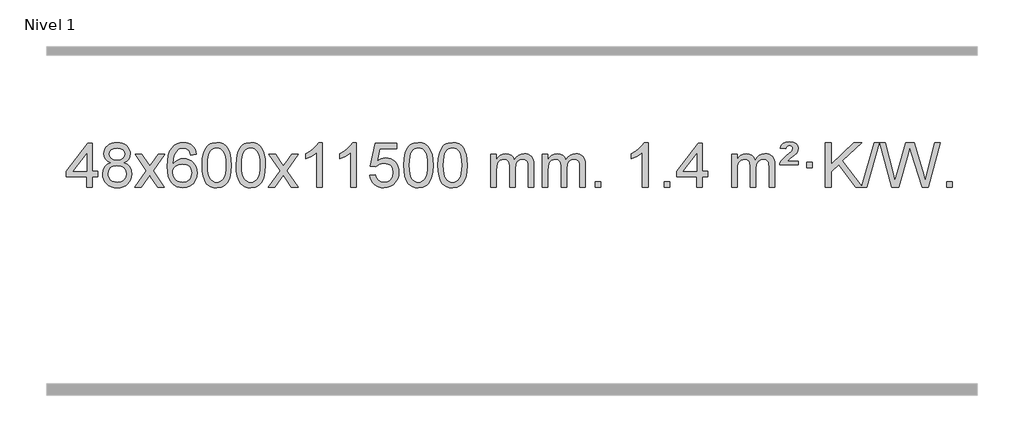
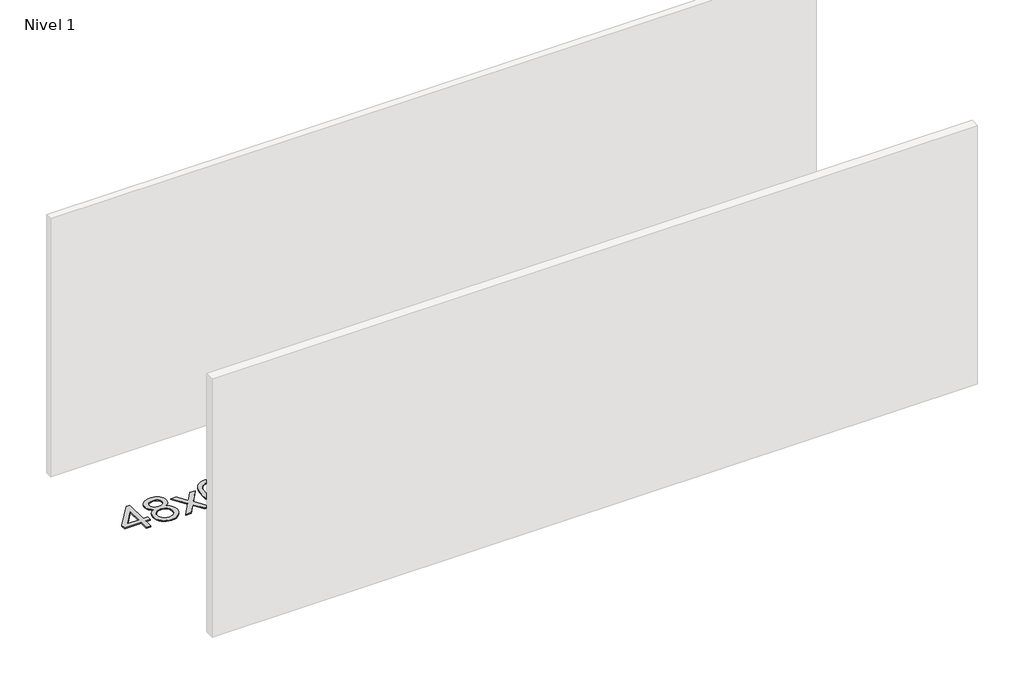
# One storey, part 9 of 10: 1 proxy.
"""IFC4 building model written with IfcOpenShell, lengths in millimetres."""

from ifc_helpers import new_model, si_unit, origin, origin_with_axes, place, context, project, spatial, polyline, outline, extrude, element, save

model = new_model("IFC4")

# Units and contexts
model_context = context("Model", 3, world=origin())
ifc_project = project(units=[si_unit("LENGTHUNIT", "METRE", prefix="MILLI")], contexts=[model_context])

# Site, building, storey
site = spatial("IfcSite", under=ifc_project)
building = spatial("IfcBuilding", under=site)
storey = spatial("IfcBuildingStorey", under=building, Name="Nivel 1", Elevation=0.0)

# Proxy
placement = place(None, origin())
element("IfcBuildingElementProxy", 1, Name="Texto de modelo 1", ObjectType="Texto de modelo 1", at=placement, inside=storey, context=model_context, shape_type="SweptSolid", body=[
    extrude(outline(polyline([(-14116.7326019, 11534.4953548), (-14116.7326019, 11628.6731455), (-14298.809664, 11628.6731455), (-14298.809664, 11678.9013006), (-14104.1755631, 11930.042076), (-14066.5044468, 11930.042076), (-14066.5044468, 11678.9013006), (-14016.2762917, 11678.9013006), (-14016.2762917, 11628.6731455), (-14066.5044468, 11628.6731455), (-14066.5044468, 11534.4953548), (-14116.7326019, 11534.4953548)]), holes=[polyline([(-14116.7326019, 11678.9013006), (-14116.7326019, 11834.0984516), (-14237.0054888, 11678.9013006), (-14116.7326019, 11678.9013006)])]), origin_with_axes(), (0.0, 0.0, 1.0), 10.0),
    extrude(outline(polyline([(-13899.1426644, 11755.8131631), (-13926.0348383, 11769.0569149), (-13944.9071846, 11787.0095563), (-13956.0540091, 11809.3032052), (-13959.7696172, 11835.5699796), (-13957.7462663, 11856.0548754), (-13951.6762134, 11874.8352512), (-13941.5594585, 11891.9111072), (-13927.3960017, 11907.2824432), (-13909.8664246, 11919.9866348), (-13889.651309, 11929.0610573), (-13866.7506548, 11934.5057109), (-13841.164462, 11936.3205954), (-13815.4556419, 11934.4627913), (-13792.3833094, 11928.8893791), (-13771.9474646, 11919.6003587), (-13754.1481074, 11906.5957302), (-13739.7271332, 11890.9239572), (-13729.4264373, 11873.6335034), (-13723.2460198, 11854.7243688), (-13721.1858806, 11834.1965535), (-13724.8524379, 11808.7759076), (-13735.8521095, 11786.8624035), (-13754.3075229, 11769.0201267), (-13780.3413055, 11755.8131631), (-13749.4269551, 11739.8838727), (-13726.9248398, 11716.4252641), (-13713.2028413, 11686.5655088), (-13708.6288419, 11651.4327783), (-13710.8974475, 11626.3800144), (-13717.7032644, 11603.4119152), (-13729.0462926, 11582.5284806), (-13744.9265321, 11563.7297106), (-13764.5101169, 11548.1928277), (-13786.9631814, 11537.0950542), (-13812.2857254, 11530.4363901), (-13840.4777489, 11528.2168354), (-13868.6697725, 11530.4455871), (-13893.9923165, 11537.1318424), (-13916.4453809, 11548.2756012), (-13936.0289658, 11563.8768634), (-13951.9092053, 11582.8074578), (-13963.2522335, 11603.9392127), (-13970.0580504, 11627.2721283), (-13972.326656, 11652.8062044), (-13967.5687155, 11689.3000983), (-13953.2948941, 11719.3192691), (-13930.2409558, 11741.8336472), (-13899.1426644, 11755.8131631)]), holes=[polyline([(-13909.5414622, 11834.0984516), (-13905.09009, 11812.1726847), (-13891.7359736, 11794.6615018), (-13869.8715204, 11783.1835835), (-13839.8891378, 11779.3576108), (-13810.6057309, 11783.159058), (-13789.0723715, 11794.5633999), (-13775.8286197, 11811.4859717), (-13771.4140357, 11831.8421087), (-13775.9757725, 11852.970798), (-13789.6609827, 11870.4451928), (-13811.4886477, 11882.1806284), (-13840.4777489, 11886.0924403), (-13869.6507912, 11882.2664675), (-13891.441668, 11870.7885493), (-13905.0165136, 11853.9640794), (-13909.5414622, 11834.0984516)]), polyline([(-13922.0985009, 11654.572038), (-13920.0015736, 11635.3563351), (-13913.7107915, 11616.7537689), (-13902.0979831, 11600.5301729), (-13884.0349772, 11588.4513807), (-13862.4035159, 11580.946588), (-13840.0853415, 11578.4449905), (-13805.8968414, 11583.705703), (-13792.0031647, 11590.2815936), (-13780.2432036, 11599.4878406), (-13764.2035486, 11623.3879075), (-13758.8569969, 11653.0024081), (-13764.3752269, 11683.1196808), (-13780.9299167, 11707.5470453), (-13793.0087088, 11716.9893498), (-13807.1721656, 11723.7338531), (-13841.7530732, 11729.1294557), (-13875.4633267, 11723.8074295), (-13889.2006535, 11717.1548967), (-13900.8594471, 11707.8413509), (-13916.7887375, 11683.8799703), (-13922.0985009, 11654.572038)])]), origin_with_axes(), (0.0, 0.0, 1.0), 10.0),
    extrude(outline(polyline([(-13683.5147643, 11534.4953548), (-13576.1913236, 11682.8253752), (-13677.236245, 11829.5857658), (-13616.8054959, 11829.5857658), (-13568.0488688, 11758.9524228), (-13545.289236, 11725.5977885), (-13525.5707611, 11752.8701071), (-13470.0451053, 11829.5857658), (-13409.6143562, 11829.5857658), (-13515.7605745, 11682.8253752), (-13413.5384308, 11534.4953548), (-13473.9691799, 11534.4953548), (-13535.4790495, 11623.6699504), (-13546.760764, 11639.95486), (-13623.0840153, 11534.4953548), (-13683.5147643, 11534.4953548)])), origin_with_axes(), (0.0, 0.0, 1.0), 10.0),
    extrude(outline(polyline([(-13124.7265391, 11829.5857658), (-13174.9546942, 11823.3072464), (-13183.0480981, 11848.2005948), (-13193.9864561, 11865.196743), (-13216.7706143, 11880.868516), (-13244.312713, 11886.0924403), (-13267.660957, 11883.0512825), (-13289.6357748, 11873.927809), (-13308.5081212, 11854.7121061), (-13323.9223768, 11828.2613906), (-13334.3334372, 11790.8477917), (-13338.1961982, 11738.7434385), (-13318.0485276, 11762.251098), (-13293.903206, 11778.8180505), (-13267.109134, 11788.6404998), (-13239.0152123, 11791.9146495), (-13214.8821534, 11789.6767007), (-13192.61303, 11782.9628543), (-13172.207842, 11771.7731103), (-13153.6665894, 11756.1074687), (-13138.2584652, 11736.8978971), (-13127.2526622, 11715.0763635), (-13120.6491803, 11690.6428676), (-13118.4480197, 11663.5974096), (-13122.5928236, 11627.6308132), (-13135.027235, 11594.2884417), (-13154.7211845, 11566.010579), (-13180.6446024, 11545.237509), (-13211.6202664, 11532.4720038), (-13246.4709541, 11528.2168354), (-13276.4134828, 11531.037264), (-13303.4558751, 11539.4985499), (-13327.5981311, 11553.600693), (-13348.8402506, 11573.3436935), (-13366.1582955, 11599.561417), (-13378.5283276, 11633.0877295), (-13385.9503469, 11673.9226309), (-13388.4243533, 11722.0661214), (-13385.677501, 11776.0405414), (-13377.4369443, 11822.1054986), (-13363.7026832, 11860.2609929), (-13344.4747176, 11890.5070242), (-13323.6342026, 11910.5504616), (-13299.4704868, 11924.8672026), (-13271.9835704, 11933.4572472), (-13241.1734533, 11936.3205954), (-13218.0398072, 11934.5486304), (-13197.1011903, 11929.2327356), (-13178.3576027, 11920.3729109), (-13161.8090442, 11907.9691563), (-13147.9031048, 11892.4384047), (-13137.0873742, 11874.1975891), (-13129.3618523, 11853.2467095), (-13124.7265391, 11829.5857658)]), holes=[polyline([(-13338.1961982, 11664.3822245), (-13335.2899304, 11642.1253638), (-13326.5711271, 11620.8740472), (-13313.0330697, 11602.6025748), (-13295.6690396, 11589.2852466), (-13274.7120286, 11581.1550545), (-13250.3950287, 11578.4449905), (-13217.2488609, 11584.0613222), (-13203.3337244, 11591.081737), (-13191.1905529, 11600.9103176), (-13181.3405125, 11613.1485253), (-13174.3047693, 11627.3978213), (-13168.6761748, 11661.9296779), (-13174.2311929, 11695.0758457), (-13181.1749656, 11708.6966765), (-13190.8962473, 11720.3493387), (-13203.0762071, 11729.6843444), (-13217.3960137, 11736.3522055), (-13252.4551679, 11741.6864944), (-13285.5522847, 11736.3522055), (-13313.2292735, 11720.3493387), (-13324.152303, 11708.8499607), (-13331.954467, 11695.6889823), (-13336.6357654, 11680.8664036), (-13338.1961982, 11664.3822245)])]), origin_with_axes(), (0.0, 0.0, 1.0), 10.0),
    extrude(outline(polyline([(-13074.4983841, 11732.1706135), (-13070.8073014, 11796.488649), (-13059.7340533, 11847.7836619), (-13041.3890045, 11886.840467), (-13029.5309415, 11902.0738473), (-13015.8825195, 11914.4438794), (-13000.3977532, 11924.0149426), (-12983.0306573, 11930.8514164), (-12942.649477, 11936.3205954), (-12911.6983385, 11933.0832338), (-12883.9845615, 11923.3711491), (-12860.8079958, 11907.5644861), (-12843.4684911, 11886.0433894), (-12830.3718921, 11858.9918), (-12819.9240434, 11826.5936589), (-12813.0814383, 11785.4521891), (-12810.8005699, 11732.1706135), (-12814.4548644, 11668.22046), (-12825.4177479, 11617.0480745), (-12843.6524321, 11577.9544811), (-12855.4829039, 11562.6751156), (-12869.1221289, 11550.2407042), (-12884.6252893, 11540.6052616), (-12902.0475674, 11533.7228026), (-12942.649477, 11528.2168354), (-12970.314203, 11530.6080683), (-12994.8396694, 11537.7817673), (-13016.225876, 11549.7379321), (-13034.472823, 11566.4765629), (-13051.9840059, 11596.734857), (-13064.4919938, 11634.4366301), (-13071.9967865, 11679.5818823), (-13074.4983841, 11732.1706135)]), holes=[polyline([(-13024.270229, 11732.2687154), (-13022.798701, 11688.6041882), (-13018.3841171, 11653.2599255), (-13011.0264772, 11626.2359273), (-13000.7257813, 11607.5321935), (-12988.2668444, 11594.8065422), (-12974.4344814, 11585.7167912), (-12959.2286922, 11580.2629406), (-12942.649477, 11578.4449905), (-12926.0702617, 11580.269072), (-12910.8644726, 11585.7413167), (-12897.0321096, 11594.8617245), (-12884.5731727, 11607.6302954), (-12874.2724768, 11626.364686), (-12866.9148369, 11653.3825529), (-12862.500253, 11688.683896), (-12861.028725, 11732.2687154), (-12862.451202, 11774.7774799), (-12866.7186332, 11809.4994089), (-12873.8310184, 11836.4345023), (-12883.7883578, 11855.5827602), (-12896.0388282, 11868.9307452), (-12910.0306067, 11878.4650203), (-12925.7636934, 11884.1855853), (-12943.2380882, 11886.0924403), (-12959.7314643, 11884.4124458), (-12974.679736, 11879.3724625), (-12988.0829034, 11870.9724903), (-12999.9409664, 11859.2125292), (-13010.5850188, 11838.3658828), (-13018.1879133, 11810.2596983), (-13022.7496501, 11774.8939759), (-13024.270229, 11732.2687154)])]), origin_with_axes(), (0.0, 0.0, 1.0), 10.0),
    extrude(outline(polyline([(-12766.8509342, 11732.1706135), (-12763.1598515, 11796.488649), (-12752.0866035, 11847.7836619), (-12733.7415547, 11886.840467), (-12721.8834917, 11902.0738473), (-12708.2350697, 11914.4438794), (-12692.7503033, 11924.0149426), (-12675.3832075, 11930.8514164), (-12635.0020271, 11936.3205954), (-12604.0508886, 11933.0832338), (-12576.3371117, 11923.3711491), (-12553.160546, 11907.5644861), (-12535.8210412, 11886.0433894), (-12522.7244422, 11858.9918), (-12512.2765936, 11826.5936589), (-12505.4339884, 11785.4521891), (-12503.1531201, 11732.1706135), (-12506.8074146, 11668.22046), (-12517.770298, 11617.0480745), (-12536.0049822, 11577.9544811), (-12547.8354541, 11562.6751156), (-12561.474679, 11550.2407042), (-12576.9778395, 11540.6052616), (-12594.4001176, 11533.7228026), (-12635.0020271, 11528.2168354), (-12662.6667532, 11530.6080683), (-12687.1922195, 11537.7817673), (-12708.5784262, 11549.7379321), (-12726.8253731, 11566.4765629), (-12744.3365561, 11596.734857), (-12756.844544, 11634.4366301), (-12764.3493367, 11679.5818823), (-12766.8509342, 11732.1706135)]), holes=[polyline([(-12716.6227791, 11732.2687154), (-12715.1512512, 11688.6041882), (-12710.7366672, 11653.2599255), (-12703.3790273, 11626.2359273), (-12693.0783315, 11607.5321935), (-12680.6193946, 11594.8065422), (-12666.7870315, 11585.7167912), (-12651.5812424, 11580.2629406), (-12635.0020271, 11578.4449905), (-12618.4228119, 11580.269072), (-12603.2170228, 11585.7413167), (-12589.3846597, 11594.8617245), (-12576.9257228, 11607.6302954), (-12566.625027, 11626.364686), (-12559.2673871, 11653.3825529), (-12554.8528031, 11688.683896), (-12553.3812752, 11732.2687154), (-12554.8037522, 11774.7774799), (-12559.0711833, 11809.4994089), (-12566.1835686, 11836.4345023), (-12576.1409079, 11855.5827602), (-12588.3913784, 11868.9307452), (-12602.3831569, 11878.4650203), (-12618.1162436, 11884.1855853), (-12635.5906383, 11886.0924403), (-12652.0840145, 11884.4124458), (-12667.0322862, 11879.3724625), (-12680.4354536, 11870.9724903), (-12692.2935165, 11859.2125292), (-12702.9375689, 11838.3658828), (-12710.5404635, 11810.2596983), (-12715.1022002, 11774.8939759), (-12716.6227791, 11732.2687154)])]), origin_with_axes(), (0.0, 0.0, 1.0), 10.0),
    extrude(outline(polyline([(-12478.0390425, 11534.4953548), (-12370.7156018, 11682.8253752), (-12471.7605232, 11829.5857658), (-12411.3297741, 11829.5857658), (-12362.573147, 11758.9524228), (-12339.8135142, 11725.5977885), (-12320.0950393, 11752.8701071), (-12264.5693835, 11829.5857658), (-12204.1386344, 11829.5857658), (-12310.2848527, 11682.8253752), (-12208.062709, 11534.4953548), (-12268.4934581, 11534.4953548), (-12330.0033277, 11623.6699504), (-12341.2850422, 11639.95486), (-12417.6082935, 11534.4953548), (-12478.0390425, 11534.4953548)])), origin_with_axes(), (0.0, 0.0, 1.0), 10.0),
    extrude(outline(polyline([(-11988.3145306, 11534.4953548), (-12038.5426856, 11534.4953548), (-12038.5426856, 11847.6365091), (-12059.5119594, 11830.6771491), (-12086.1220903, 11813.7423146), (-12138.9989958, 11788.3829824), (-12138.9989958, 11835.8642852), (-12099.5497832, 11857.3240683), (-12065.3735458, 11882.8550787), (-12038.432321, 11910.00477), (-12020.6881461, 11936.3205954), (-11988.3145306, 11936.3205954), (-11988.3145306, 11534.4953548)])), origin_with_axes(), (0.0, 0.0, 1.0), 10.0),
    extrude(outline(polyline([(-11680.6670807, 11534.4953548), (-11730.8952358, 11534.4953548), (-11730.8952358, 11847.6365091), (-11751.8645095, 11830.6771491), (-11778.4746405, 11813.7423146), (-11831.351546, 11788.3829824), (-11831.351546, 11835.8642852), (-11791.9023333, 11857.3240683), (-11757.726096, 11882.8550787), (-11730.7848712, 11910.00477), (-11713.0406963, 11936.3205954), (-11680.6670807, 11936.3205954), (-11680.6670807, 11534.4953548)])), origin_with_axes(), (0.0, 0.0, 1.0), 10.0),
    extrude(outline(polyline([(-11561.3752124, 11641.2301843), (-11511.1470573, 11647.5087037), (-11501.925482, 11617.3546428), (-11485.8367761, 11595.7599697), (-11462.954516, 11582.7737353), (-11433.3522781, 11578.4449905), (-11414.2224144, 11579.9502409), (-11397.3488935, 11584.4659924), (-11382.7317156, 11591.9922449), (-11370.3708805, 11602.5289984), (-11360.5422999, 11615.5550867), (-11353.5218851, 11630.5493437), (-11347.9055534, 11666.4423637), (-11353.1662659, 11700.2384563), (-11359.7421566, 11714.1566585), (-11368.9484035, 11726.0882979), (-11380.8156635, 11735.6593611), (-11395.3745935, 11742.4958348), (-11432.5674632, 11747.9650138), (-11456.933514, 11745.7822473), (-11476.6642517, 11739.2339478), (-11492.4218638, 11729.2030321), (-11504.868538, 11716.5724169), (-11555.096693, 11722.8509363), (-11511.1470573, 11930.042076), (-11316.5129564, 11930.042076), (-11316.5129564, 11879.8139209), (-11470.5328851, 11879.8139209), (-11492.0171936, 11769.1550168), (-11474.2914128, 11781.8592083), (-11456.1364363, 11790.9336309), (-11437.5522642, 11796.3782844), (-11418.5388964, 11798.1931689), (-11394.0778094, 11795.9429574), (-11371.6094166, 11789.1923228), (-11351.1337179, 11777.9412651), (-11332.6507133, 11762.1897843), (-11317.349888, 11742.900505), (-11306.420727, 11721.0360518), (-11299.8632305, 11696.5964246), (-11297.6773983, 11669.5816234), (-11299.645567, 11643.5601036), (-11305.550073, 11619.3534683), (-11315.3909163, 11596.9617175), (-11329.1680971, 11576.3848513), (-11350.0392689, 11555.3113443), (-11374.393057, 11540.2588394), (-11402.2294613, 11531.2273364), (-11433.5484818, 11528.2168354), (-11459.4688341, 11530.1512815), (-11482.8814574, 11535.95462), (-11503.7863518, 11545.6268508), (-11522.1835172, 11559.1679739), (-11537.4904739, 11575.903539), (-11549.124742, 11595.1590958), (-11557.0863215, 11616.9346442), (-11561.3752124, 11641.2301843)])), origin_with_axes(), (0.0, 0.0, 1.0), 10.0),
    extrude(outline(polyline([(-11253.7277626, 11732.1706135), (-11250.0366799, 11796.488649), (-11238.9634319, 11847.7836619), (-11220.618383, 11886.840467), (-11208.76032, 11902.0738473), (-11195.111898, 11914.4438794), (-11179.6271317, 11924.0149426), (-11162.2600359, 11930.8514164), (-11121.8788555, 11936.3205954), (-11090.927717, 11933.0832338), (-11063.21394, 11923.3711491), (-11040.0373743, 11907.5644861), (-11022.6978696, 11886.0433894), (-11009.6012706, 11858.9918), (-10999.1534219, 11826.5936589), (-10992.3108168, 11785.4521891), (-10990.0299484, 11732.1706135), (-10993.6842429, 11668.22046), (-11004.6471264, 11617.0480745), (-11022.8818106, 11577.9544811), (-11034.7122824, 11562.6751156), (-11048.3515074, 11550.2407042), (-11063.8546678, 11540.6052616), (-11081.276946, 11533.7228026), (-11121.8788555, 11528.2168354), (-11149.5435816, 11530.6080683), (-11174.0690479, 11537.7817673), (-11195.4552546, 11549.7379321), (-11213.7022015, 11566.4765629), (-11231.2133845, 11596.734857), (-11243.7213723, 11634.4366301), (-11251.226165, 11679.5818823), (-11253.7277626, 11732.1706135)]), holes=[polyline([(-11203.4996075, 11732.2687154), (-11202.0280795, 11688.6041882), (-11197.6134956, 11653.2599255), (-11190.2558557, 11626.2359273), (-11179.9551598, 11607.5321935), (-11167.4962229, 11594.8065422), (-11153.6638599, 11585.7167912), (-11138.4580708, 11580.2629406), (-11121.8788555, 11578.4449905), (-11105.2996403, 11580.269072), (-11090.0938511, 11585.7413167), (-11076.2614881, 11594.8617245), (-11063.8025512, 11607.6302954), (-11053.5018553, 11626.364686), (-11046.1442154, 11653.3825529), (-11041.7296315, 11688.683896), (-11040.2581035, 11732.2687154), (-11041.6805806, 11774.7774799), (-11045.9480117, 11809.4994089), (-11053.060397, 11836.4345023), (-11063.0177363, 11855.5827602), (-11075.2682067, 11868.9307452), (-11089.2599853, 11878.4650203), (-11104.9930719, 11884.1855853), (-11122.4674667, 11886.0924403), (-11138.9608428, 11884.4124458), (-11153.9091146, 11879.3724625), (-11167.3122819, 11870.9724903), (-11179.1703449, 11859.2125292), (-11189.8143973, 11838.3658828), (-11197.4172919, 11810.2596983), (-11201.9790286, 11774.8939759), (-11203.4996075, 11732.2687154)])]), origin_with_axes(), (0.0, 0.0, 1.0), 10.0),
    extrude(outline(polyline([(-10946.0803128, 11732.1706135), (-10942.3892301, 11796.488649), (-10931.315982, 11847.7836619), (-10912.9709332, 11886.840467), (-10901.1128702, 11902.0738473), (-10887.4644482, 11914.4438794), (-10871.9796819, 11924.0149426), (-10854.612586, 11930.8514164), (-10814.2314057, 11936.3205954), (-10783.2802672, 11933.0832338), (-10755.5664902, 11923.3711491), (-10732.3899245, 11907.5644861), (-10715.0504198, 11886.0433894), (-10701.9538208, 11858.9918), (-10691.5059721, 11826.5936589), (-10684.663367, 11785.4521891), (-10682.3824986, 11732.1706135), (-10686.0367931, 11668.22046), (-10696.9996766, 11617.0480745), (-10715.2343608, 11577.9544811), (-10727.0648326, 11562.6751156), (-10740.7040576, 11550.2407042), (-10756.207218, 11540.6052616), (-10773.6294962, 11533.7228026), (-10814.2314057, 11528.2168354), (-10841.8961317, 11530.6080683), (-10866.4215981, 11537.7817673), (-10887.8078047, 11549.7379321), (-10906.0547517, 11566.4765629), (-10923.5659347, 11596.734857), (-10936.0739225, 11634.4366301), (-10943.5787152, 11679.5818823), (-10946.0803128, 11732.1706135)]), holes=[polyline([(-10895.8521577, 11732.2687154), (-10894.3806297, 11688.6041882), (-10889.9660458, 11653.2599255), (-10882.6084059, 11626.2359273), (-10872.30771, 11607.5321935), (-10859.8487731, 11594.8065422), (-10846.0164101, 11585.7167912), (-10830.8106209, 11580.2629406), (-10814.2314057, 11578.4449905), (-10797.6521904, 11580.269072), (-10782.4464013, 11585.7413167), (-10768.6140383, 11594.8617245), (-10756.1551014, 11607.6302954), (-10745.8544055, 11626.364686), (-10738.4967656, 11653.3825529), (-10734.0821817, 11688.683896), (-10732.6106537, 11732.2687154), (-10734.0331307, 11774.7774799), (-10738.3005619, 11809.4994089), (-10745.4129471, 11836.4345023), (-10755.3702865, 11855.5827602), (-10767.6207569, 11868.9307452), (-10781.6125354, 11878.4650203), (-10797.3456221, 11884.1855853), (-10814.8200169, 11886.0924403), (-10831.313393, 11884.4124458), (-10846.2616647, 11879.3724625), (-10859.6648321, 11870.9724903), (-10871.5228951, 11859.2125292), (-10882.1669475, 11838.3658828), (-10889.769842, 11810.2596983), (-10894.3315788, 11774.8939759), (-10895.8521577, 11732.2687154)])]), origin_with_axes(), (0.0, 0.0, 1.0), 10.0),
    extrude(outline(polyline([(-10468.9128395, 11534.4953548), (-10468.9128395, 11829.5857658), (-10418.6846845, 11829.5857658), (-10418.6846845, 11781.0253425), (-10403.5769972, 11803.3312541), (-10384.1528279, 11820.8056489), (-10361.074364, 11832.0996261), (-10335.0037933, 11835.8642852), (-10307.0692871, 11832.0260497), (-10284.6775364, 11820.5113433), (-10267.9511683, 11802.0804553), (-10257.0128103, 11777.4936753), (-10238.7045497, 11803.0308171), (-10217.8211151, 11821.2716327), (-10194.3625065, 11832.2161221), (-10168.328724, 11835.8642852), (-10148.2209073, 11834.346772), (-10130.5717686, 11829.7942323), (-10115.3813079, 11822.2066661), (-10102.6495251, 11811.5840735), (-10092.5848869, 11797.8038271), (-10085.3958596, 11780.7432996), (-10081.0824432, 11760.402491), (-10079.6446377, 11736.7814012), (-10079.6446377, 11534.4953548), (-10129.8727928, 11534.4953548), (-10129.8727928, 11715.1989908), (-10131.0377524, 11740.2517547), (-10134.5326314, 11757.1375382), (-10141.0809309, 11768.7012956), (-10151.4061522, 11777.7879809), (-10164.6866923, 11783.6740928), (-10180.1009479, 11785.6361301), (-10207.3119528, 11780.6084095), (-10229.4952371, 11765.5252477), (-10238.1006101, 11753.955359), (-10244.2473051, 11739.3565751), (-10249.1646611, 11701.0723222), (-10249.1646611, 11534.4953548), (-10299.3928162, 11534.4953548), (-10299.3928162, 11720.7907971), (-10302.2990839, 11749.1912871), (-10311.0178872, 11769.4493223), (-10326.3585664, 11781.5894282), (-10349.1304619, 11785.6361301), (-10368.4810549, 11782.9383288), (-10386.3110689, 11774.8449249), (-10401.0263487, 11761.5521222), (-10411.032739, 11743.2561243), (-10416.7716981, 11717.8722666), (-10418.6846845, 11683.3158845), (-10418.6846845, 11534.4953548), (-10468.9128395, 11534.4953548)])), origin_with_axes(), (0.0, 0.0, 1.0), 10.0),
    extrude(outline(polyline([(-10004.3024051, 11534.4953548), (-10004.3024051, 11829.5857658), (-9954.07425, 11829.5857658), (-9954.07425, 11781.0253425), (-9938.9665628, 11803.3312541), (-9919.5423934, 11820.8056489), (-9896.4639296, 11832.0996261), (-9870.3933589, 11835.8642852), (-9842.4588527, 11832.0260497), (-9820.0671019, 11820.5113433), (-9803.3407339, 11802.0804553), (-9792.4023759, 11777.4936753), (-9774.0941153, 11803.0308171), (-9753.2106807, 11821.2716327), (-9729.7520721, 11832.2161221), (-9703.7182896, 11835.8642852), (-9683.6104729, 11834.346772), (-9665.9613341, 11829.7942323), (-9650.7708734, 11822.2066661), (-9638.0390907, 11811.5840735), (-9627.9744525, 11797.8038271), (-9620.7854251, 11780.7432996), (-9616.4720087, 11760.402491), (-9615.0342033, 11736.7814012), (-9615.0342033, 11534.4953548), (-9665.2623584, 11534.4953548), (-9665.2623584, 11715.1989908), (-9666.427318, 11740.2517547), (-9669.922197, 11757.1375382), (-9676.4704965, 11768.7012956), (-9686.7957178, 11777.7879809), (-9700.0762578, 11783.6740928), (-9715.4905134, 11785.6361301), (-9742.7015183, 11780.6084095), (-9764.8848026, 11765.5252477), (-9773.4901756, 11753.955359), (-9779.6368707, 11739.3565751), (-9784.5542267, 11701.0723222), (-9784.5542267, 11534.4953548), (-9834.7823817, 11534.4953548), (-9834.7823817, 11720.7907971), (-9837.6886495, 11749.1912871), (-9846.4074528, 11769.4493223), (-9861.748132, 11781.5894282), (-9884.5200275, 11785.6361301), (-9903.8706204, 11782.9383288), (-9921.7006345, 11774.8449249), (-9936.4159143, 11761.5521222), (-9946.4223045, 11743.2561243), (-9952.1612637, 11717.8722666), (-9954.07425, 11683.3158845), (-9954.07425, 11534.4953548), (-10004.3024051, 11534.4953548)])), origin_with_axes(), (0.0, 0.0, 1.0), 10.0),
    extrude(outline(polyline([(-9527.1349319, 11534.4953548), (-9527.1349319, 11584.7235098), (-9476.9067768, 11584.7235098), (-9476.9067768, 11534.4953548), (-9527.1349319, 11534.4953548)])), origin_with_axes(), (0.0, 0.0, 1.0), 10.0),
    extrude(outline(polyline([(-9049.9674587, 11534.4953548), (-9100.1956138, 11534.4953548), (-9100.1956138, 11847.6365091), (-9121.1648875, 11830.6771491), (-9147.7750185, 11813.7423146), (-9200.6519239, 11788.3829824), (-9200.6519239, 11835.8642852), (-9161.2027113, 11857.3240683), (-9127.0264739, 11882.8550787), (-9100.0852492, 11910.00477), (-9082.3410743, 11936.3205954), (-9049.9674587, 11936.3205954), (-9049.9674587, 11534.4953548)])), origin_with_axes(), (0.0, 0.0, 1.0), 10.0),
    extrude(outline(polyline([(-8905.5615128, 11534.4953548), (-8905.5615128, 11584.7235098), (-8855.3333578, 11584.7235098), (-8855.3333578, 11534.4953548), (-8905.5615128, 11534.4953548)])), origin_with_axes(), (0.0, 0.0, 1.0), 10.0),
    extrude(outline(polyline([(-8610.4711018, 11534.4953548), (-8610.4711018, 11628.6731455), (-8792.5481639, 11628.6731455), (-8792.5481639, 11678.9013006), (-8597.914063, 11930.042076), (-8560.2429467, 11930.042076), (-8560.2429467, 11678.9013006), (-8510.0147916, 11678.9013006), (-8510.0147916, 11628.6731455), (-8560.2429467, 11628.6731455), (-8560.2429467, 11534.4953548), (-8610.4711018, 11534.4953548)]), holes=[polyline([(-8610.4711018, 11678.9013006), (-8610.4711018, 11834.0984516), (-8730.7439887, 11678.9013006), (-8610.4711018, 11678.9013006)])]), origin_with_axes(), (0.0, 0.0, 1.0), 10.0),
    extrude(outline(polyline([(-8296.5451326, 11534.4953548), (-8296.5451326, 11829.5857658), (-8246.3169775, 11829.5857658), (-8246.3169775, 11781.0253425), (-8231.2092902, 11803.3312541), (-8211.7851209, 11820.8056489), (-8188.706657, 11832.0996261), (-8162.6360863, 11835.8642852), (-8134.7015802, 11832.0260497), (-8112.3098294, 11820.5113433), (-8095.5834613, 11802.0804553), (-8084.6451033, 11777.4936753), (-8066.3368427, 11803.0308171), (-8045.4534081, 11821.2716327), (-8021.9947996, 11832.2161221), (-7995.961017, 11835.8642852), (-7975.8532003, 11834.346772), (-7958.2040616, 11829.7942323), (-7943.0136009, 11822.2066661), (-7930.2818182, 11811.5840735), (-7920.2171799, 11797.8038271), (-7913.0281526, 11780.7432996), (-7908.7147362, 11760.402491), (-7907.2769307, 11736.7814012), (-7907.2769307, 11534.4953548), (-7957.5050858, 11534.4953548), (-7957.5050858, 11715.1989908), (-7958.6700455, 11740.2517547), (-7962.1649244, 11757.1375382), (-7968.7132239, 11768.7012956), (-7979.0384453, 11777.7879809), (-7992.3189853, 11783.6740928), (-8007.7332409, 11785.6361301), (-8034.9442458, 11780.6084095), (-8057.1275301, 11765.5252477), (-8065.7329031, 11753.955359), (-8071.8795981, 11739.3565751), (-8076.7969541, 11701.0723222), (-8076.7969541, 11534.4953548), (-8127.0251092, 11534.4953548), (-8127.0251092, 11720.7907971), (-8129.9313769, 11749.1912871), (-8138.6501802, 11769.4493223), (-8153.9908594, 11781.5894282), (-8176.7627549, 11785.6361301), (-8196.1133479, 11782.9383288), (-8213.9433619, 11774.8449249), (-8228.6586417, 11761.5521222), (-8238.665032, 11743.2561243), (-8244.4039911, 11717.8722666), (-8246.3169775, 11683.3158845), (-8246.3169775, 11534.4953548), (-8296.5451326, 11534.4953548)])), origin_with_axes(), (0.0, 0.0, 1.0), 10.0),
    extrude(outline(polyline([(-7863.327295, 11735.4079751), (-7859.5013223, 11751.2269009), (-7851.1626637, 11767.0948776), (-7829.6538298, 11792.2334806), (-7797.6971471, 11819.971783), (-7753.5513077, 11857.3485937), (-7746.414397, 11868.8755629), (-7744.0354267, 11880.6968377), (-7745.9238876, 11892.7878926), (-7751.5892704, 11902.5735537), (-7760.9579985, 11909.0482768), (-7773.9564957, 11911.2065178), (-7786.3909071, 11909.587837), (-7795.2446005, 11904.7317947), (-7801.6702727, 11895.2649647), (-7806.8206206, 11879.8139209), (-7857.0487757, 11886.0924403), (-7846.2085195, 11911.3046197), (-7829.5802534, 11928.8648536), (-7805.8150765, 11939.1655495), (-7773.5640882, 11942.5991147), (-7737.7814328, 11938.4665737), (-7713.0352373, 11926.0689504), (-7698.6142631, 11907.7361643), (-7693.8072717, 11885.7981347), (-7697.9030245, 11862.8913491), (-7710.1902832, 11841.2598878), (-7730.7180985, 11821.443311), (-7767.187467, 11793.3861775), (-7792.7920538, 11766.800572), (-7693.8072717, 11766.800572), (-7693.8072717, 11735.4079751), (-7863.327295, 11735.4079751)])), origin_with_axes(), (0.0, 0.0, 1.0), 10.0),
    extrude(outline(polyline([(-7618.4650391, 11710.2938975), (-7618.4650391, 11760.5220526), (-7568.236884, 11760.5220526), (-7568.236884, 11710.2938975), (-7618.4650391, 11710.2938975)])), origin_with_axes(), (0.0, 0.0, 1.0), 10.0),
    extrude(outline(polyline([(-7177.595256, 11534.4953548), (-7331.0265735, 11737.1738086), (-7398.7168606, 11672.6227812), (-7398.7168606, 11534.4953548), (-7448.9450157, 11534.4953548), (-7448.9450157, 11936.3205954), (-7398.7168606, 11936.3205954), (-7398.7168606, 11739.6263553), (-7192.7029433, 11936.3205954), (-7122.4620077, 11936.3205954), (-7295.4155964, 11771.1170541), (-7120.7619865, 11540.5398745), (-7009.4486588, 11936.3205954), (-6964.125597, 11936.3205954), (-7077.1389459, 11534.4953548), (-7116.1834883, 11534.4953548), (-7122.4620077, 11534.4953548), (-7177.595256, 11534.4953548)])), origin_with_axes(), (0.0, 0.0, 1.0), 10.0),
    extrude(outline(polyline([(-6849.6407201, 11534.4953548), (-6959.2205037, 11936.3205954), (-6907.4227188, 11936.3205954), (-6843.85271, 11672.2303738), (-6824.2323369, 11590.7077236), (-6803.2385377, 11662.8125947), (-6723.5798231, 11936.3205954), (-6648.9243035, 11936.3205954), (-6591.0442029, 11738.0567254), (-6566.2489564, 11664.4803264), (-6547.977484, 11590.7077236), (-6528.9457221, 11669.875929), (-6464.7871022, 11936.3205954), (-6412.9893173, 11936.3205954), (-6522.6672028, 11534.4953548), (-6576.3289231, 11534.4953548), (-6672.6649549, 11844.4972494), (-6686.1049105, 11887.760172), (-6701.2125977, 11835.6680815), (-6789.0137673, 11534.4953548), (-6849.6407201, 11534.4953548)])), origin_with_axes(), (0.0, 0.0, 1.0), 10.0),
    extrude(outline(polyline([(-6356.4826428, 11534.4953548), (-6356.4826428, 11584.7235098), (-6306.2544877, 11584.7235098), (-6306.2544877, 11534.4953548), (-6356.4826428, 11534.4953548)])), origin_with_axes(), (0.0, 0.0, 1.0), 10.0),
])

save(model, "model.ifc")
